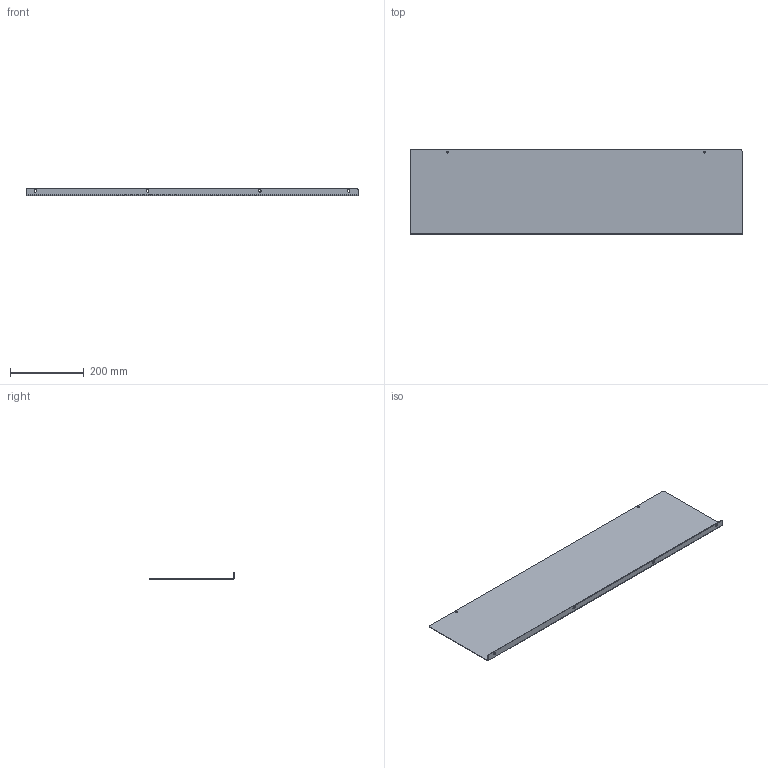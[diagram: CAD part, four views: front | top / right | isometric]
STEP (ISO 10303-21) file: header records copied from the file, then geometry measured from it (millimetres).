
FILE_DESCRIPTION((''),'2;1');
FILE_NAME('C:\Vault_Workspace\Inventor_Dwg\Inv-1\1100BA\WEBSITE\1100BA10036.stp','2015-02-02T15:16:04',('MichaelA'),(''),'Autodesk Inventor 2012','Autodesk Inventor 2012','');
FILE_SCHEMA(('AUTOMOTIVE_DESIGN { 1 0 10303 214 1 1 1 1 }'));
Length unit declared in the file: inch
Products named in the file (1): 1100BA-MASTER
Bounding box: 901.7 x 228.6 x 19.05 mm (x, y, z)
Volume: 309115.3 mm3; surface area: 445904.4 mm2
Topology: 1 solids, 1 shells, 24 faces, 58 edges, 36 vertices
Faces by surface type: cylinder 12, plane 12
Full cylindrical faces by diameter (mm): 4.496 x2, 7.137 x4
Entity records: 724 total; most frequent: DIRECTION 126, CARTESIAN_POINT 113, ORIENTED_EDGE 104, EDGE_CURVE 52, AXIS2_PLACEMENT_3D 49, EDGE_LOOP 42, VERTEX_POINT 36, VECTOR 28
